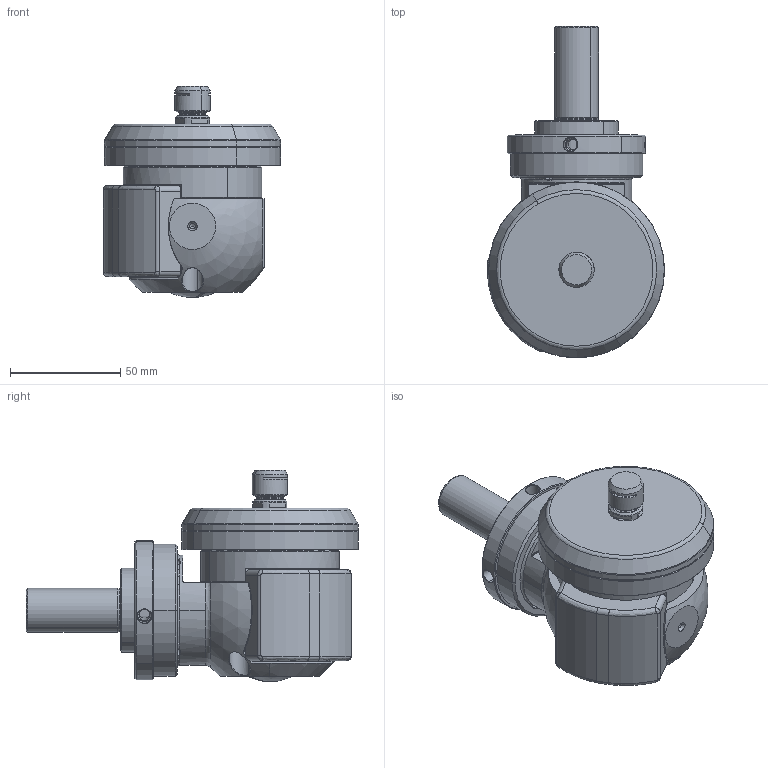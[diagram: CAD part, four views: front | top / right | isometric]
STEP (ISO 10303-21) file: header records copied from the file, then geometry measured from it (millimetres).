
FILE_DESCRIPTION (( 'STEP AP214' ), '1' );
FILE_NAME ('ST20 ANGLE HEAD-RW-GJET.STEP', '2023-08-13T09:39:09', ( '' ), ( '' ), 'SwSTEP 2.0', 'SolidWorks 2019', '' );
FILE_SCHEMA (( 'AUTOMOTIVE_DESIGN' ));
Length unit declared in the file: millimetre
Products named in the file (6): O-Ring 15.6x1.78; M5x10-DIN912; TJER-093; TJST-121_C BORE; TJS HPC TR FC; ST20 ANGLE HEAD-RW-GJET
Assembly tree (7 placements, depth 2):
  ST20 ANGLE HEAD-RW-GJET
    TJST-121_C BORE
    O-Ring 15.6x1.78
    TJS HPC TR FC
    M5x10-DIN912  x3
    TJER-093
Bounding box: 80.48 x 150.8 x 95.89 mm (x, y, z)
Volume: 382392.3 mm3; surface area: 75495 mm2
Topology: 7 solids, 7 shells, 570 faces, 1331 edges, 801 vertices
Faces by surface type: cylinder 183, plane 154, cone 139, bspline 56, torus 36, sphere 2
Entity records: 26043 total; most frequent: CARTESIAN_POINT 12772, DIRECTION 2469, ORIENTED_EDGE 2366, EDGE_CURVE 1183, AXIS2_PLACEMENT_3D 1034, VERTEX_POINT 728, EDGE_LOOP 593, CIRCLE 570
